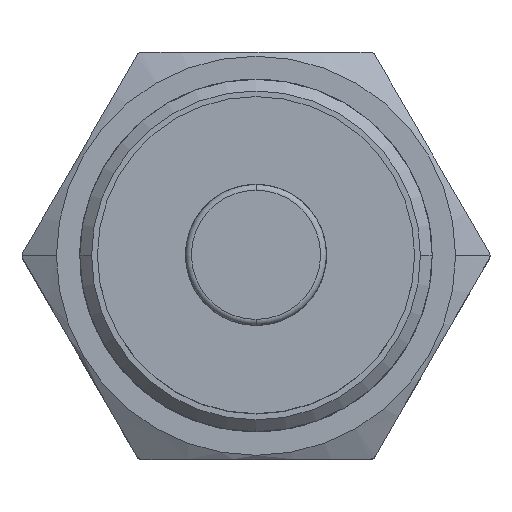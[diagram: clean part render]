
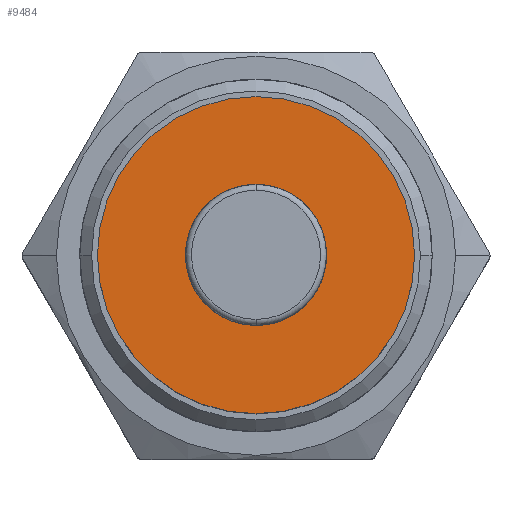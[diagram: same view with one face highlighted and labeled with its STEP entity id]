
A CAD part, top view. The second image highlights one B-rep face of the part: STEP entity #9484.
In plain terms, the highlighted planar face has unit normal (0, 0, 1).
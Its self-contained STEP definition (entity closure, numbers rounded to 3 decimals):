
#3334=CARTESIAN_POINT('',(0.,0.,64.));
#3335=DIRECTION('',(0.,0.,1.));
#3336=DIRECTION('',(1.,0.,0.));
#3337=AXIS2_PLACEMENT_3D('',#3334,#3335,#3336);
#3342=CARTESIAN_POINT('',(0.,0.,64.));
#3343=DIRECTION('',(0.,0.,1.));
#3344=DIRECTION('',(-1.,0.,0.));
#3345=AXIS2_PLACEMENT_3D('',#3342,#3343,#3344);
#3350=CARTESIAN_POINT('',(0.,0.,64.));
#3351=DIRECTION('',(0.,0.,1.));
#3352=DIRECTION('',(1.,0.,0.));
#3353=AXIS2_PLACEMENT_3D('',#3350,#3351,#3352);
#3358=CARTESIAN_POINT('',(0.,0.,64.));
#3359=DIRECTION('',(0.,0.,1.));
#3360=DIRECTION('',(-1.,0.,0.));
#3361=AXIS2_PLACEMENT_3D('',#3358,#3359,#3360);
#4420=CARTESIAN_POINT('',(13.5,0.,64.));
#4421=CARTESIAN_POINT('',(-13.5,0.,64.));
#4422=VERTEX_POINT('',#4420);
#4423=VERTEX_POINT('',#4421);
#4511=CARTESIAN_POINT('',(5.,0.,64.));
#4512=CARTESIAN_POINT('',(-5.,0.,64.));
#4513=VERTEX_POINT('',#4511);
#4514=VERTEX_POINT('',#4512);
#9469=CARTESIAN_POINT('',(0.,0.,64.));
#9470=DIRECTION('',(0.,0.,1.));
#9471=DIRECTION('',(1.,0.,0.));
#9472=AXIS2_PLACEMENT_3D('',#9469,#9470,#9471);
#9473=PLANE('',#9472);
#9474=ORIENTED_EDGE('',*,*,#9449,.F.);
#9475=ORIENTED_EDGE('',*,*,#9463,.F.);
#9476=EDGE_LOOP('',(#9474,#9475));
#9477=FACE_OUTER_BOUND('',#9476,.F.);
#9479=ORIENTED_EDGE('',*,*,#9478,.T.);
#9481=ORIENTED_EDGE('',*,*,#9480,.T.);
#9482=EDGE_LOOP('',(#9479,#9481));
#9483=FACE_BOUND('',#9482,.F.);
#3338=CIRCLE('',#3337,13.5);
#3346=CIRCLE('',#3345,13.5);
#3354=CIRCLE('',#3353,5.);
#3362=CIRCLE('',#3361,5.);
#9449=EDGE_CURVE('',#4422,#4423,#3338,.T.);
#9463=EDGE_CURVE('',#4423,#4422,#3346,.T.);
#9478=EDGE_CURVE('',#4513,#4514,#3354,.T.);
#9480=EDGE_CURVE('',#4514,#4513,#3362,.T.);
#9484=ADVANCED_FACE('',(#9477,#9483),#9473,.T.);
